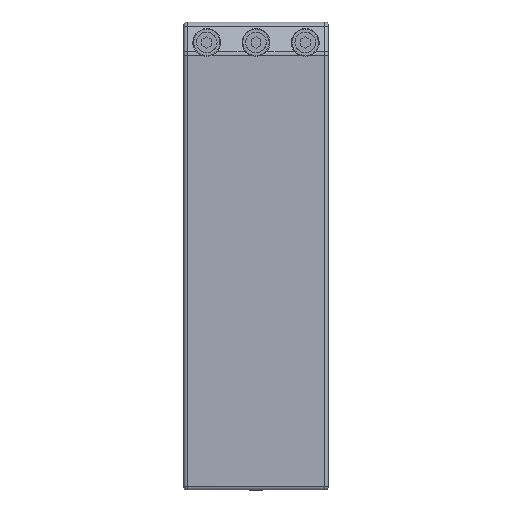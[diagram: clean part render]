
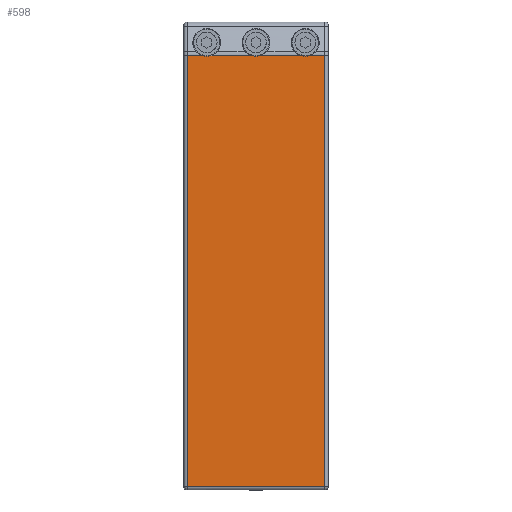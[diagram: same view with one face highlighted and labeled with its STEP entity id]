
A CAD part, top view. The second image highlights one B-rep face of the part: STEP entity #598.
In plain terms, the highlighted planar face has unit normal (0, 0, 1).
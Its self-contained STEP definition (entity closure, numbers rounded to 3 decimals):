
#598=ADVANCED_FACE('5252141.1_Seitenanbindung Rippe innen SW80',(#1408),#1409,.T.);
#1408=FACE_OUTER_BOUND('',#2535,.T.);
#1409=PLANE('',#2536);
#2535=EDGE_LOOP('',(#4273,#4274,#4275,#4276,#4277,#4278,#4279,#4280,#4281,#4282));
#2536=AXIS2_PLACEMENT_3D('',#4283,#4284,#4285);
#4273=ORIENTED_EDGE('',*,*,#6918,.T.);
#4274=ORIENTED_EDGE('',*,*,#6848,.F.);
#4275=ORIENTED_EDGE('',*,*,#6816,.F.);
#4276=ORIENTED_EDGE('',*,*,#6749,.F.);
#4277=ORIENTED_EDGE('',*,*,#6756,.F.);
#4278=ORIENTED_EDGE('',*,*,#6766,.F.);
#4279=ORIENTED_EDGE('',*,*,#6774,.F.);
#4280=ORIENTED_EDGE('',*,*,#6782,.F.);
#4281=ORIENTED_EDGE('',*,*,#6899,.F.);
#4282=ORIENTED_EDGE('',*,*,#6921,.T.);
#4283=CARTESIAN_POINT('',(0.0,-7.84,60.0));
#4284=DIRECTION('',(0.0,0.0,1.0));
#4285=DIRECTION('',(1.0,0.0,0.0));
#6749=EDGE_CURVE('',#8001,#8003,#8004,.T.);
#6756=EDGE_CURVE('',#8013,#8001,#8014,.T.);
#6766=EDGE_CURVE('',#8026,#8013,#8028,.T.);
#6774=EDGE_CURVE('',#8037,#8026,#8039,.T.);
#6782=EDGE_CURVE('',#8048,#8037,#8050,.T.);
#6816=EDGE_CURVE('',#8003,#8094,#8095,.T.);
#6848=EDGE_CURVE('',#8094,#8145,#8146,.T.);
#6899=EDGE_CURVE('',#8221,#8048,#8222,.T.);
#6918=EDGE_CURVE('',#8247,#8145,#8248,.T.);
#6921=EDGE_CURVE('',#8221,#8247,#8251,.T.);
#8001=VERTEX_POINT('',#10304);
#8003=VERTEX_POINT('',#10317);
#8004=B_SPLINE_CURVE_WITH_KNOTS('',5,(#10318,#10319,#10320,#10321,#10322,#10323),.UNSPECIFIED.,.F.,.F.,(6,6),(0.,0.793),.UNSPECIFIED.);
#8013=VERTEX_POINT('',#10362);
#8014=B_SPLINE_CURVE_WITH_KNOTS('',1,(#10363,#10364),.UNSPECIFIED.,.F.,.F.,(2,2),(0.0,1.),.UNSPECIFIED.);
#8026=VERTEX_POINT('',#10422);
#8028=B_SPLINE_CURVE_WITH_KNOTS('',5,(#10435,#10436,#10437,#10438,#10439,#10440),.UNSPECIFIED.,.F.,.F.,(6,6),(0.0,0.793),.UNSPECIFIED.);
#8037=VERTEX_POINT('',#10469);
#8039=B_SPLINE_CURVE_WITH_KNOTS('',1,(#10482,#10483),.UNSPECIFIED.,.F.,.F.,(2,2),(0.,1.),.UNSPECIFIED.);
#8048=VERTEX_POINT('',#10526);
#8050=B_SPLINE_CURVE_WITH_KNOTS('',5,(#10539,#10540,#10541,#10542,#10543,#10544),.UNSPECIFIED.,.F.,.F.,(6,6),(0.0,0.793),.UNSPECIFIED.);
#8094=VERTEX_POINT('',#10764);
#8095=B_SPLINE_CURVE_WITH_KNOTS('',1,(#10765,#10766),.UNSPECIFIED.,.F.,.F.,(2,2),(0.,1.0),.UNSPECIFIED.);
#8145=VERTEX_POINT('',#10945);
#8146=B_SPLINE_CURVE_WITH_KNOTS('',1,(#10946,#10947),.UNSPECIFIED.,.F.,.F.,(2,2),(0.,1.0),.UNSPECIFIED.);
#8221=VERTEX_POINT('',#11201);
#8222=B_SPLINE_CURVE_WITH_KNOTS('',1,(#11202,#11203),.UNSPECIFIED.,.F.,.F.,(2,2),(0.0,1.),.UNSPECIFIED.);
#8247=VERTEX_POINT('',#11265);
#8248=B_SPLINE_CURVE_WITH_KNOTS('',1,(#11266,#11267),.UNSPECIFIED.,.F.,.F.,(2,2),(0.0,1.0),.UNSPECIFIED.);
#8251=B_SPLINE_CURVE_WITH_KNOTS('',1,(#11279,#11280),.UNSPECIFIED.,.F.,.F.,(2,2),(0.,1.0),.UNSPECIFIED.);
#10304=CARTESIAN_POINT('',(26.715,-7.84,60.0));
#10317=CARTESIAN_POINT('',(33.285,-7.84,60.0));
#10318=CARTESIAN_POINT('',(26.715,-7.84,60.0));
#10319=CARTESIAN_POINT('',(27.96,-8.361,60.));
#10320=CARTESIAN_POINT('',(29.307,-8.636,60.));
#10321=CARTESIAN_POINT('',(30.693,-8.636,60.));
#10322=CARTESIAN_POINT('',(32.04,-8.361,60.));
#10323=CARTESIAN_POINT('',(33.285,-7.84,60.0));
#10362=CARTESIAN_POINT('',(3.285,-7.84,60.0));
#10363=CARTESIAN_POINT('',(3.285,-7.84,60.0));
#10364=CARTESIAN_POINT('',(26.715,-7.84,60.0));
#10422=CARTESIAN_POINT('',(-3.285,-7.84,60.0));
#10435=CARTESIAN_POINT('',(-3.285,-7.84,60.0));
#10436=CARTESIAN_POINT('',(-2.04,-8.361,60.));
#10437=CARTESIAN_POINT('',(-0.693,-8.636,60.));
#10438=CARTESIAN_POINT('',(0.693,-8.636,60.));
#10439=CARTESIAN_POINT('',(2.04,-8.361,60.));
#10440=CARTESIAN_POINT('',(3.285,-7.84,60.0));
#10469=CARTESIAN_POINT('',(-26.715,-7.84,60.0));
#10482=CARTESIAN_POINT('',(-26.715,-7.84,60.0));
#10483=CARTESIAN_POINT('',(-3.285,-7.84,60.0));
#10526=CARTESIAN_POINT('',(-33.285,-7.84,60.0));
#10539=CARTESIAN_POINT('',(-33.285,-7.84,60.0));
#10540=CARTESIAN_POINT('',(-32.04,-8.361,60.));
#10541=CARTESIAN_POINT('',(-30.693,-8.636,60.));
#10542=CARTESIAN_POINT('',(-29.307,-8.636,60.));
#10543=CARTESIAN_POINT('',(-27.96,-8.361,60.));
#10544=CARTESIAN_POINT('',(-26.715,-7.84,60.0));
#10764=CARTESIAN_POINT('',(42.0,-7.84,60.0));
#10765=CARTESIAN_POINT('',(33.285,-7.84,60.0));
#10766=CARTESIAN_POINT('',(42.,-7.84,60.0));
#10945=CARTESIAN_POINT('',(42.0,-270.5,60.0));
#10946=CARTESIAN_POINT('',(42.0,-7.84,60.0));
#10947=CARTESIAN_POINT('',(42.0,-270.5,60.0));
#11201=CARTESIAN_POINT('',(-42.0,-7.84,60.0));
#11202=CARTESIAN_POINT('',(-42.,-7.84,60.0));
#11203=CARTESIAN_POINT('',(-33.285,-7.84,60.0));
#11265=CARTESIAN_POINT('',(-42.0,-270.5,60.0));
#11266=CARTESIAN_POINT('',(-42.,-270.5,60.0));
#11267=CARTESIAN_POINT('',(42.,-270.5,60.0));
#11279=CARTESIAN_POINT('',(-42.0,-7.84,60.0));
#11280=CARTESIAN_POINT('',(-42.0,-270.5,60.0));
